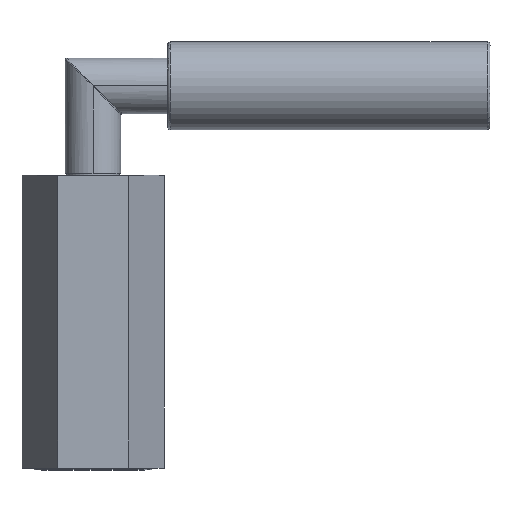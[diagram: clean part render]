
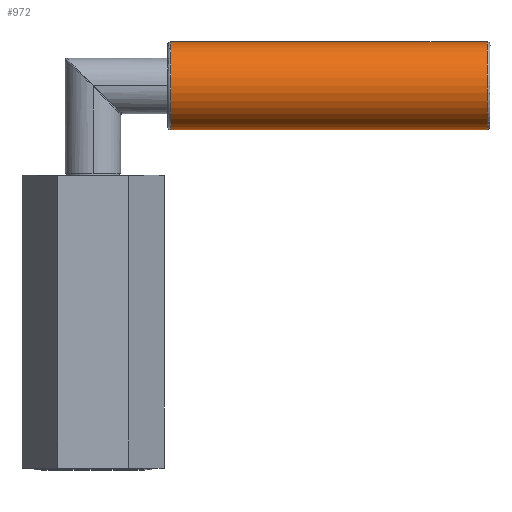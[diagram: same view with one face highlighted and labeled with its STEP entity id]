
A CAD part, top view. The second image highlights one B-rep face of the part: STEP entity #972.
In plain terms, the highlighted cylindrical face has radius 7.5 mm (diameter 15 mm), a partial arc.
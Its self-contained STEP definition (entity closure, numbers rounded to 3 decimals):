
#188=CARTESIAN_POINT('',(13.25,65.25,0.));
#189=DIRECTION('',(1.,0.,0.));
#190=DIRECTION('',(0.,1.,0.));
#191=AXIS2_PLACEMENT_3D('',#188,#189,#190);
#203=DIRECTION('',(1.,0.,0.));
#204=VECTOR('',#203,54.);
#205=CARTESIAN_POINT('',(13.25,72.75,0.));
#206=LINE('',#205,#204);
#207=DIRECTION('',(1.,0.,0.));
#208=VECTOR('',#207,54.);
#209=CARTESIAN_POINT('',(13.25,57.75,0.));
#210=LINE('',#209,#208);
#216=CARTESIAN_POINT('',(67.25,65.25,0.));
#217=DIRECTION('',(-1.,0.,0.));
#218=DIRECTION('',(0.,-1.,0.));
#219=AXIS2_PLACEMENT_3D('',#216,#217,#218);
#823=CARTESIAN_POINT('',(13.25,57.75,0.));
#824=CARTESIAN_POINT('',(67.25,57.75,0.));
#825=VERTEX_POINT('',#823);
#826=VERTEX_POINT('',#824);
#827=CARTESIAN_POINT('',(13.25,72.75,0.));
#828=CARTESIAN_POINT('',(67.25,72.75,0.));
#829=VERTEX_POINT('',#827);
#830=VERTEX_POINT('',#828);
#960=CARTESIAN_POINT('',(12.75,65.25,0.));
#961=DIRECTION('',(1.,0.,0.));
#962=DIRECTION('',(0.,1.,0.));
#963=AXIS2_PLACEMENT_3D('',#960,#961,#962);
#964=CYLINDRICAL_SURFACE('',#963,7.5);
#965=ORIENTED_EDGE('',*,*,#906,.F.);
#966=ORIENTED_EDGE('',*,*,#948,.T.);
#968=ORIENTED_EDGE('',*,*,#967,.F.);
#969=ORIENTED_EDGE('',*,*,#944,.F.);
#970=EDGE_LOOP('',(#965,#966,#968,#969));
#971=FACE_OUTER_BOUND('',#970,.F.);
#192=CIRCLE('',#191,7.5);
#220=CIRCLE('',#219,7.5);
#906=EDGE_CURVE('',#829,#825,#192,.T.);
#944=EDGE_CURVE('',#825,#826,#210,.T.);
#948=EDGE_CURVE('',#829,#830,#206,.T.);
#967=EDGE_CURVE('',#826,#830,#220,.T.);
#972=ADVANCED_FACE('',(#971),#964,.T.);
